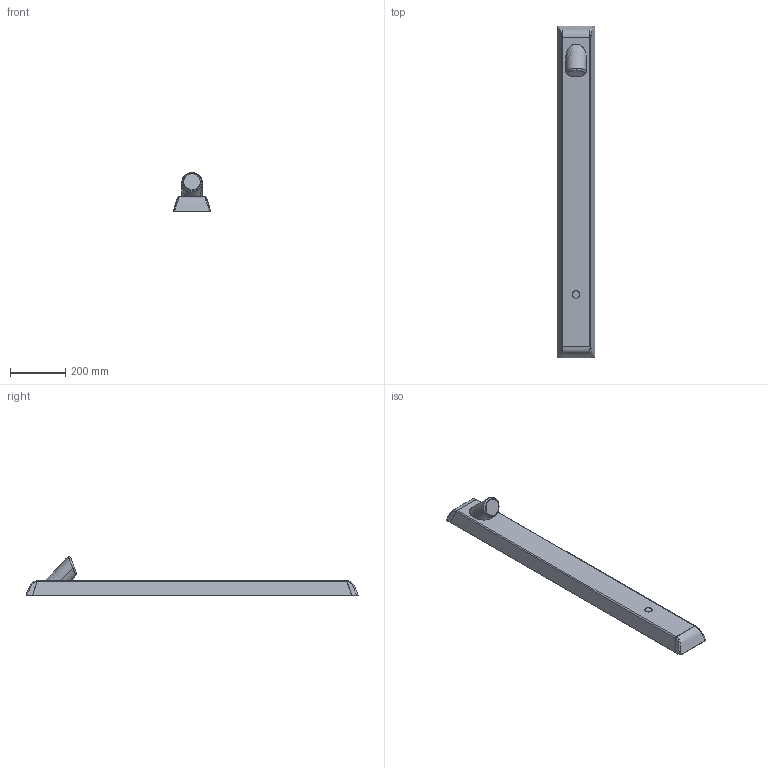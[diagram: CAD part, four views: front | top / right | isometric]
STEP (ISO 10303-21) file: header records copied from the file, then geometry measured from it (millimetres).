
FILE_DESCRIPTION (( 'STEP AP203' ), '1' );
FILE_NAME ('9610FZ(2026)+96102219(2026).STEP', '2026-02-10T09:15:09', ( '' ), ( '' ), 'SwSTEP 2.0', 'SolidWorks 2024', '' );
FILE_SCHEMA (( 'CONFIG_CONTROL_DESIGN' ));
Length unit declared in the file: millimetre
Products named in the file (1): 9610FZ(2026)+96102219(2026)
Bounding box: 135.43 x 1198.7 x 139.02 mm (x, y, z)
Volume: 7594128.1 mm3; surface area: 472187.8 mm2
Topology: 5 solids, 5 shells, 144 faces, 361 edges, 221 vertices
Faces by surface type: bspline 90, cylinder 31, plane 23
Entity records: 12347 total; most frequent: CARTESIAN_POINT 9606, ORIENTED_EDGE 702, EDGE_CURVE 351, DIRECTION 330, VERTEX_POINT 221, B_SPLINE_CURVE_WITH_KNOTS 199, EDGE_LOOP 148, ADVANCED_FACE 144
